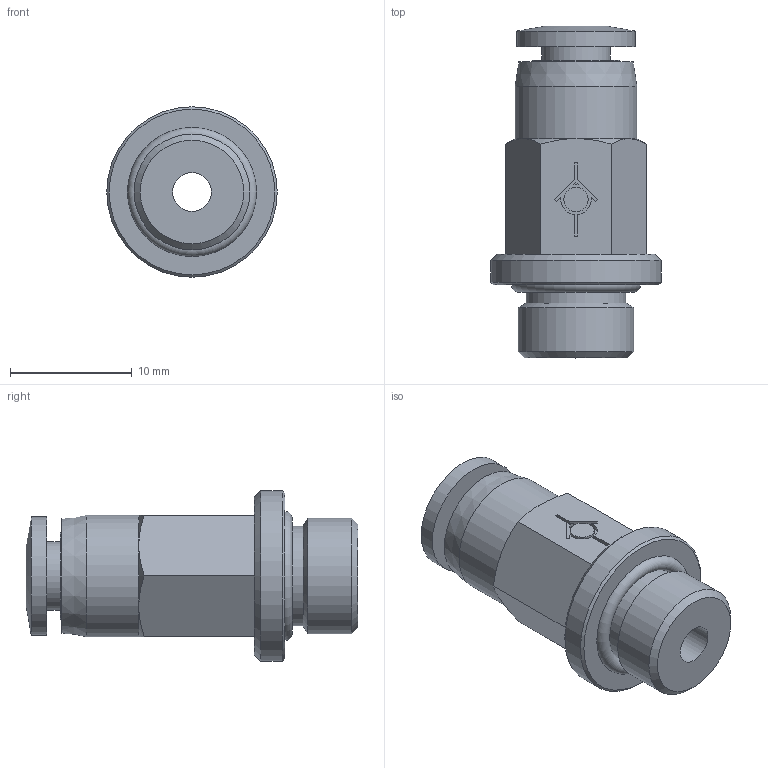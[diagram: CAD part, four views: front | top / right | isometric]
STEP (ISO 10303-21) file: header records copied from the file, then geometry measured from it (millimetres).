
FILE_DESCRIPTION(/* description */ (''),/* implementation_level */ '2;1');
FILE_NAME(/* name */ 'D:\CDC pneumatics\inventor\CVPC G\CVPC 04G01.stp',/* time_stamp */ '2015-08-31T13:16:31+09:00',/* author */ ('DIAMOND'),/* organization */ (''),/* preprocessor_version */ 'ST-DEVELOPER v15.6',/* originating_system */ 'Autodesk Inventor 2015',/* authorisation */ '');
FILE_SCHEMA (('AUTOMOTIVE_DESIGN { 1 0 10303 214 3 1 1 }'));
Length unit declared in the file: millimetre
Products named in the file (1): CVPC 04G01
Bounding box: 14 x 27.25 x 14 mm (x, y, z)
Volume: 1952.7 mm3; surface area: 1587.3 mm2
Topology: 1 solids, 1 shells, 58 faces, 126 edges, 79 vertices
Faces by surface type: plane 31, cylinder 13, cone 12, torus 2
Full cylindrical faces by diameter (mm): 2 x1, 3.2 x1, 4 x1, 5.6 x1, 7.2 x1, 8.2 x1, 9.5 x1, 9.7 x1, 10 x1, 14 x1
Entity records: 1493 total; most frequent: CARTESIAN_POINT 268, DIRECTION 251, ORIENTED_EDGE 214, EDGE_CURVE 107, AXIS2_PLACEMENT_3D 97, EDGE_LOOP 87, VERTEX_POINT 78, FACE_OUTER_BOUND 58
